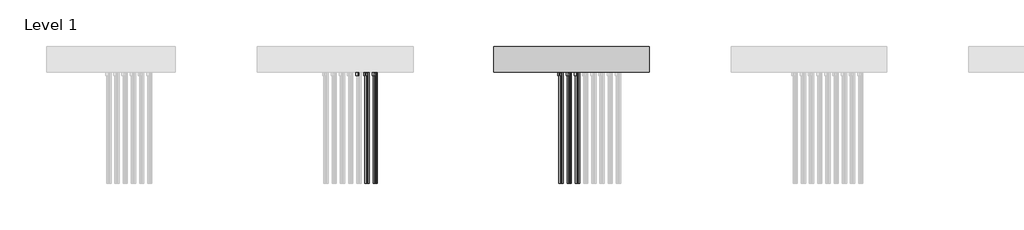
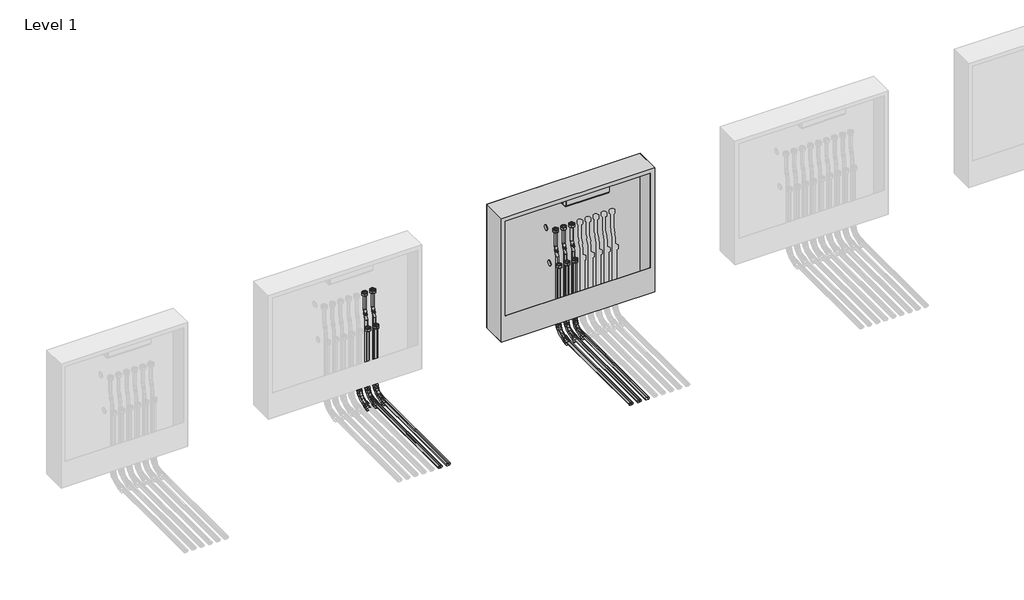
# One storey, part 6 of 15: 41 pipe fittings, 32 pipe segments, 1 proxy, 1 valve.
"""IFC4 building model written with IfcOpenShell, lengths in millimetres."""

from ifc_helpers import new_model, si_unit, point, frame, frame_2d, origin, place, context, project, spatial, circle_curve, trimmed, segment, composite_curve, outline, extrude, transform, mapped, element, save
from components import mechanical_equipment_387b3563, pipe_fitting_b05a7e06, pipe_fitting_27357a6d, pipe_fitting_daada113, pipe_fitting_3e503640, valve_ecdb27b7

model = new_model("IFC4")

# Units and contexts
model_context = context("Model", 3, world=origin())
ifc_project = project(units=[si_unit("LENGTHUNIT", "METRE", prefix="MILLI")], contexts=[model_context])

# Site, building, storey
site = spatial("IfcSite", under=ifc_project)
building = spatial("IfcBuilding", under=site)
storey = spatial("IfcBuildingStorey", under=building, Name="Level 1", Elevation=0.0)

# Proxy
placement = place(None, origin())
mechanical_equipment_shape = mechanical_equipment_387b3563(model_context)
element("IfcBuildingElementProxy", 1, Name="USYSTEMS_Контроллер UH-6 230В1 : Контроллер UH-6 230В 2", ObjectType="USYSTEMS_Контроллер UH-6 230В1 : Контроллер UH-6 230В 2", at=placement, inside=storey, context=model_context, shape_type="MappedRepresentation", body=[
    mapped(mechanical_equipment_shape, transform((10283.661723, 3891.7280605, 729.375), x_axis=(1.0, 0.0, 0.0), y_axis=(0.0, 1.0, 0.0), z_axis=(0.0, 0.0, 1.0))),
])

# Pipe fittings
pipe_fitting_shape = pipe_fitting_b05a7e06(model_context)
element("IfcPipeFitting", 2, ObjectType="USYSTEMS_УгловойФиксатор_Multi : Угловой фиксатор", at=placement, inside=storey, context=model_context, shape_type="MappedRepresentation", body=[
    mapped(pipe_fitting_shape, transform((8867.1374436, 3819.7304327, -114.3211479), x_axis=(0.0, 0.0, -1.0), y_axis=(0.0, -1.0, 0.0), z_axis=(-1.0, 0.0, 0.0))),
])
element("IfcPipeFitting", 3, ObjectType="USYSTEMS_УгловойФиксатор_Multi : Угловой фиксатор", at=placement, inside=storey, context=model_context, shape_type="MappedRepresentation", body=[
    mapped(pipe_fitting_shape, transform((8877.2232, 3855.7301106, -114.3211479), x_axis=(0.0, 0.0, -1.0), y_axis=(0.0, -1.0, 0.0), z_axis=(-1.0, 0.0, 0.0))),
])
element("IfcPipeFitting", 4, ObjectType="USYSTEMS_УгловойФиксатор_Multi : Угловой фиксатор", at=placement, inside=storey, context=model_context, shape_type="MappedRepresentation", body=[
    mapped(pipe_fitting_shape, transform((8917.1374436, 3819.7304124, -114.3211479), x_axis=(0.0, 0.0, -1.0), y_axis=(0.0, -1.0, 0.0), z_axis=(-1.0, 0.0, 0.0))),
])
element("IfcPipeFitting", 5, ObjectType="USYSTEMS_УгловойФиксатор_Multi : Угловой фиксатор", at=placement, inside=storey, context=model_context, shape_type="MappedRepresentation", body=[
    mapped(pipe_fitting_shape, transform((8927.2232, 3855.7301106, -114.3211479), x_axis=(0.0, 0.0, -1.0), y_axis=(0.0, -1.0, 0.0), z_axis=(-1.0, 0.0, 0.0))),
])
element("IfcPipeFitting", 6, ObjectType="USYSTEMS_УгловойФиксатор_Multi : Угловой фиксатор", at=placement, inside=storey, context=model_context, shape_type="MappedRepresentation", body=[
    mapped(pipe_fitting_shape, transform((8967.1374436, 3819.7301106, -114.3211479), x_axis=(0.0, 0.0, -1.0), y_axis=(0.0, -1.0, 0.0), z_axis=(-1.0, 0.0, 0.0))),
])
element("IfcPipeFitting", 7, ObjectType="USYSTEMS_УгловойФиксатор_Multi : Угловой фиксатор", at=placement, inside=storey, context=model_context, shape_type="MappedRepresentation", body=[
    mapped(pipe_fitting_shape, transform((8977.2232, 3855.7304327, -114.3211479), x_axis=(0.0, 0.0, -1.0), y_axis=(0.0, -1.0, 0.0), z_axis=(-1.0, 0.0, 0.0))),
])
element("IfcPipeFitting", 8, ObjectType="USYSTEMS_УгловойФиксатор_Multi : Угловой фиксатор", at=placement, inside=storey, context=model_context, shape_type="MappedRepresentation", body=[
    mapped(pipe_fitting_shape, transform((10100.2672599, 3819.7905605, -114.3211479), x_axis=(0.0, 0.0, -1.0), y_axis=(0.0, -1.0, 0.0), z_axis=(-1.0, 0.0, 0.0))),
])
element("IfcPipeFitting", 9, ObjectType="USYSTEMS_УгловойФиксатор_Multi : Угловой фиксатор", at=placement, inside=storey, context=model_context, shape_type="MappedRepresentation", body=[
    mapped(pipe_fitting_shape, transform((10150.2672599, 3819.7905605, -114.3211479), x_axis=(0.0, 0.0, -1.0), y_axis=(0.0, -1.0, 0.0), z_axis=(-1.0, 0.0, 0.0))),
])
element("IfcPipeFitting", 10, ObjectType="USYSTEMS_УгловойФиксатор_Multi : Угловой фиксатор", at=placement, inside=storey, context=model_context, shape_type="MappedRepresentation", body=[
    mapped(pipe_fitting_shape, transform((10110.3530164, 3855.7905605, -114.3211479), x_axis=(0.0, 0.0, -1.0), y_axis=(0.0, -1.0, 0.0), z_axis=(-1.0, 0.0, 0.0))),
])
element("IfcPipeFitting", 11, ObjectType="USYSTEMS_УгловойФиксатор_Multi : Угловой фиксатор", at=placement, inside=storey, context=model_context, shape_type="MappedRepresentation", body=[
    mapped(pipe_fitting_shape, transform((10160.3530164, 3855.7905605, -114.3211479), x_axis=(0.0, 0.0, -1.0), y_axis=(0.0, -1.0, 0.0), z_axis=(-1.0, 0.0, 0.0))),
])
element("IfcPipeFitting", 12, ObjectType="USYSTEMS_УгловойФиксатор_Multi : Угловой фиксатор", at=placement, inside=storey, context=model_context, shape_type="MappedRepresentation", body=[
    mapped(pipe_fitting_shape, transform((10200.2672599, 3819.7905605, -114.3211479), x_axis=(0.0, 0.0, -1.0), y_axis=(0.0, -1.0, 0.0), z_axis=(-1.0, 0.0, 0.0))),
])
pipe_fitting_2_shape = pipe_fitting_27357a6d(model_context)
element("IfcPipeFitting", 13, ObjectType="USYSTEMS_Штуцер с внутренней резьбой_FlexX_PEX : 16x2,0 x 3/4\" ВР Евроконус", at=placement, inside=storey, context=model_context, shape_type="MappedRepresentation", body=[
    mapped(pipe_fitting_2_shape, transform((8917.1374436, 3819.7305707, 328.3084133), x_axis=(0.0, 0.0, 1.0), y_axis=(0.0, 1.0, 0.0), z_axis=(-1.0, 0.0, 0.0))),
])
element("IfcPipeFitting", 14, ObjectType="USYSTEMS_Штуцер с внутренней резьбой_FlexX_PEX : 16x2,0 x 3/4\" ВР Евроконус", at=placement, inside=storey, context=model_context, shape_type="MappedRepresentation", body=[
    mapped(pipe_fitting_2_shape, transform((8917.1374436, 3855.7305707, 538.3084133), x_axis=(0.0, 0.0, 1.0), y_axis=(0.0, 1.0, 0.0), z_axis=(-1.0, 0.0, 0.0))),
])
element("IfcPipeFitting", 15, ObjectType="USYSTEMS_Штуцер с внутренней резьбой_FlexX_PEX : 16x2,0 x 3/4\" ВР Евроконус", at=placement, inside=storey, context=model_context, shape_type="MappedRepresentation", body=[
    mapped(pipe_fitting_2_shape, transform((8967.1374436, 3819.7305707, 328.3084133), x_axis=(0.0, 0.0, 1.0), y_axis=(0.0, 1.0, 0.0), z_axis=(-1.0, 0.0, 0.0))),
])
element("IfcPipeFitting", 16, ObjectType="USYSTEMS_Штуцер с внутренней резьбой_FlexX_PEX : 16x2,0 x 3/4\" ВР Евроконус", at=placement, inside=storey, context=model_context, shape_type="MappedRepresentation", body=[
    mapped(pipe_fitting_2_shape, transform((8967.1374436, 3855.7305707, 538.3084133), x_axis=(0.0, 0.0, 1.0), y_axis=(0.0, 1.0, 0.0), z_axis=(-1.0, 0.0, 0.0))),
])
element("IfcPipeFitting", 17, ObjectType="USYSTEMS_Штуцер с внутренней резьбой_FlexX_PEX : 16x2,0 x 3/4\" ВР Евроконус", at=placement, inside=storey, context=model_context, shape_type="MappedRepresentation", body=[
    mapped(pipe_fitting_2_shape, transform((10150.2672599, 3855.7910207, 538.3084133), x_axis=(0.0, 0.0, 1.0), y_axis=(0.0, 1.0, 0.0), z_axis=(-1.0, 0.0, 0.0))),
])
element("IfcPipeFitting", 18, ObjectType="USYSTEMS_Штуцер с внутренней резьбой_FlexX_PEX : 16x2,0 x 3/4\" ВР Евроконус", at=placement, inside=storey, context=model_context, shape_type="MappedRepresentation", body=[
    mapped(pipe_fitting_2_shape, transform((10150.2672599, 3819.7910207, 328.3084133), x_axis=(0.0, 0.0, 1.0), y_axis=(0.0, 1.0, 0.0), z_axis=(-1.0, 0.0, 0.0))),
])
element("IfcPipeFitting", 19, ObjectType="USYSTEMS_Штуцер с внутренней резьбой_FlexX_PEX : 16x2,0 x 3/4\" ВР Евроконус", at=placement, inside=storey, context=model_context, shape_type="MappedRepresentation", body=[
    mapped(pipe_fitting_2_shape, transform((10100.2672599, 3819.7910207, 328.3084133), x_axis=(0.0, 0.0, 1.0), y_axis=(0.0, 1.0, 0.0), z_axis=(-1.0, 0.0, 0.0))),
])
element("IfcPipeFitting", 20, ObjectType="USYSTEMS_Штуцер с внутренней резьбой_FlexX_PEX : 16x2,0 x 3/4\" ВР Евроконус", at=placement, inside=storey, context=model_context, shape_type="MappedRepresentation", body=[
    mapped(pipe_fitting_2_shape, transform((10100.2672599, 3855.7910207, 538.3084133), x_axis=(0.0, 0.0, 1.0), y_axis=(0.0, 1.0, 0.0), z_axis=(-1.0, 0.0, 0.0))),
])
element("IfcPipeFitting", 21, ObjectType="USYSTEMS_Штуцер с внутренней резьбой_FlexX_PEX : 16x2,0 x 3/4\" ВР Евроконус", at=placement, inside=storey, context=model_context, shape_type="MappedRepresentation", body=[
    mapped(pipe_fitting_2_shape, transform((10200.2672599, 3819.7910207, 328.3084133), x_axis=(0.0, 0.0, 1.0), y_axis=(0.0, 1.0, 0.0), z_axis=(-1.0, 0.0, 0.0))),
])
element("IfcPipeFitting", 22, ObjectType="USYSTEMS_Штуцер с внутренней резьбой_FlexX_PEX : 16x2,0 x 3/4\" ВР Евроконус", at=placement, inside=storey, context=model_context, shape_type="MappedRepresentation", body=[
    mapped(pipe_fitting_2_shape, transform((10200.2672599, 3855.7910207, 538.3084133), x_axis=(0.0, 0.0, 1.0), y_axis=(0.0, 1.0, 0.0), z_axis=(-1.0, 0.0, 0.0))),
])
pipe_fitting_3_shape = pipe_fitting_daada113(model_context)
element("IfcPipeFitting", 23, ObjectType="USYSTEMS_Гнутая труба_Radi Pipe : PN 6 в бухтах", at=placement, inside=storey, context=model_context, shape_type="MappedRepresentation", body=[
    mapped(pipe_fitting_3_shape, transform((8917.1374436, 3855.7299215, 414.5388211), x_axis=(0.0, 0.0, -1.0), y_axis=(1.0, 0.0, 0.0), z_axis=(0.0, -1.0, 0.0))),
])
element("IfcPipeFitting", 24, ObjectType="USYSTEMS_Гнутая труба_Radi Pipe : PN 6 в бухтах", at=placement, inside=storey, context=model_context, shape_type="MappedRepresentation", body=[
    mapped(pipe_fitting_3_shape, transform((8927.2232, 3855.7301106, 388.2645272), x_axis=(0.3583679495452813, 0.0, -0.9335804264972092), y_axis=(-0.9335804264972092, 0.0, -0.3583679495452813), z_axis=(0.0, 1.0, 0.0))),
])
element("IfcPipeFitting", 25, ObjectType="USYSTEMS_Гнутая труба_Radi Pipe : PN 6 в бухтах", at=placement, inside=storey, context=model_context, shape_type="MappedRepresentation", body=[
    mapped(pipe_fitting_3_shape, transform((8967.1374436, 3855.7303427, 414.5388211), x_axis=(0.0, 0.0, -1.0), y_axis=(1.0, 0.0, 0.0), z_axis=(0.0, -1.0, 0.0))),
])
element("IfcPipeFitting", 26, ObjectType="USYSTEMS_Гнутая труба_Radi Pipe : PN 6 в бухтах", at=placement, inside=storey, context=model_context, shape_type="MappedRepresentation", body=[
    mapped(pipe_fitting_3_shape, transform((8977.2232, 3855.7304327, 388.2645272), x_axis=(0.3583679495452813, 0.0, -0.9335804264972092), y_axis=(-0.9335804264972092, 0.0, -0.3583679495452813), z_axis=(0.0, 1.0, 0.0))),
])
pipe_fitting_4_shape = pipe_fitting_3e503640(model_context)
element("IfcPipeFitting", 27, ObjectType="USYSTEMS_Гнутая труба_Radi Pipe : PN 6 в бухтах_С фиксатором", at=placement, inside=storey, context=model_context, shape_type="MappedRepresentation", body=[
    mapped(pipe_fitting_4_shape, transform((8917.1374436, 3819.7304124, -114.3211479), x_axis=(0.0, 0.0, -1.0), y_axis=(0.0, -1.0, 0.0), z_axis=(-1.0, 0.0, 0.0))),
])
element("IfcPipeFitting", 28, ObjectType="USYSTEMS_Гнутая труба_Radi Pipe : PN 6 в бухтах_С фиксатором", at=placement, inside=storey, context=model_context, shape_type="MappedRepresentation", body=[
    mapped(pipe_fitting_4_shape, transform((8927.2232, 3855.7301106, -114.3211479), x_axis=(0.0, 0.0, -1.0), y_axis=(0.0, -1.0, 0.0), z_axis=(-1.0, 0.0, 0.0))),
])
element("IfcPipeFitting", 29, ObjectType="USYSTEMS_Гнутая труба_Radi Pipe : PN 6 в бухтах_С фиксатором", at=placement, inside=storey, context=model_context, shape_type="MappedRepresentation", body=[
    mapped(pipe_fitting_4_shape, transform((8967.1374436, 3819.7301106, -114.3211479), x_axis=(0.0, 0.0, -1.0), y_axis=(0.0, -1.0, 0.0), z_axis=(-1.0, 0.0, 0.0))),
])
element("IfcPipeFitting", 30, ObjectType="USYSTEMS_Гнутая труба_Radi Pipe : PN 6 в бухтах_С фиксатором", at=placement, inside=storey, context=model_context, shape_type="MappedRepresentation", body=[
    mapped(pipe_fitting_4_shape, transform((8977.2232, 3855.7304327, -114.3211479), x_axis=(0.0, 0.0, -1.0), y_axis=(0.0, -1.0, 0.0), z_axis=(-1.0, 0.0, 0.0))),
])
element("IfcPipeFitting", 31, ObjectType="USYSTEMS_Гнутая труба_Radi Pipe : PN 6 в бухтах", at=placement, inside=storey, context=model_context, shape_type="MappedRepresentation", body=[
    mapped(pipe_fitting_3_shape, transform((10100.2672599, 3855.7902607, 414.5388211), x_axis=(0.0, 0.0, -1.0), y_axis=(1.0, 0.0, 0.0), z_axis=(0.0, -1.0, 0.0))),
])
element("IfcPipeFitting", 32, ObjectType="USYSTEMS_Гнутая труба_Radi Pipe : PN 6 в бухтах", at=placement, inside=storey, context=model_context, shape_type="MappedRepresentation", body=[
    mapped(pipe_fitting_3_shape, transform((10110.3530164, 3855.7905605, 388.2645272), x_axis=(0.3583679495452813, 0.0, -0.9335804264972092), y_axis=(-0.9335804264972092, 0.0, -0.3583679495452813), z_axis=(0.0, 1.0, 0.0))),
])
element("IfcPipeFitting", 33, ObjectType="USYSTEMS_Гнутая труба_Radi Pipe : PN 6 в бухтах", at=placement, inside=storey, context=model_context, shape_type="MappedRepresentation", body=[
    mapped(pipe_fitting_3_shape, transform((10150.2672599, 3855.7902608, 414.5122189), x_axis=(0.0, 0.0, -1.0), y_axis=(1.0, 0.0, 0.0), z_axis=(0.0, -1.0, 0.0))),
])
element("IfcPipeFitting", 34, ObjectType="USYSTEMS_Гнутая труба_Radi Pipe : PN 6 в бухтах", at=placement, inside=storey, context=model_context, shape_type="MappedRepresentation", body=[
    mapped(pipe_fitting_3_shape, transform((10160.3530164, 3855.7905605, 388.237925), x_axis=(0.3583679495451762, 0.0, -0.9335804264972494), y_axis=(-0.9335804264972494, 0.0, -0.3583679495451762), z_axis=(0.0, 1.0, 0.0))),
])
element("IfcPipeFitting", 35, ObjectType="USYSTEMS_Гнутая труба_Radi Pipe : PN 6 в бухтах", at=placement, inside=storey, context=model_context, shape_type="MappedRepresentation", body=[
    mapped(pipe_fitting_3_shape, transform((10200.2672599, 3855.7907927, 414.5388211), x_axis=(0.0, 0.0, -1.0), y_axis=(1.0, 0.0, 0.0), z_axis=(0.0, -1.0, 0.0))),
])
element("IfcPipeFitting", 36, ObjectType="USYSTEMS_Гнутая труба_Radi Pipe : PN 6 в бухтах", at=placement, inside=storey, context=model_context, shape_type="MappedRepresentation", body=[
    mapped(pipe_fitting_3_shape, transform((10210.3530164, 3855.7905605, 388.2645272), x_axis=(0.3583679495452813, 0.0, -0.9335804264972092), y_axis=(-0.9335804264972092, 0.0, -0.3583679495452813), z_axis=(0.0, 1.0, 0.0))),
])
element("IfcPipeFitting", 37, ObjectType="USYSTEMS_Гнутая труба_Radi Pipe : PN 6 в бухтах_С фиксатором", at=placement, inside=storey, context=model_context, shape_type="MappedRepresentation", body=[
    mapped(pipe_fitting_4_shape, transform((10100.2672599, 3819.7905605, -114.3211479), x_axis=(0.0, 0.0, -1.0), y_axis=(0.0, -1.0, 0.0), z_axis=(-1.0, 0.0, 0.0))),
])
element("IfcPipeFitting", 38, ObjectType="USYSTEMS_Гнутая труба_Radi Pipe : PN 6 в бухтах_С фиксатором", at=placement, inside=storey, context=model_context, shape_type="MappedRepresentation", body=[
    mapped(pipe_fitting_4_shape, transform((10150.2672599, 3819.7905605, -114.3211479), x_axis=(0.0, 0.0, -1.0), y_axis=(0.0, -1.0, 0.0), z_axis=(-1.0, 0.0, 0.0))),
])
element("IfcPipeFitting", 39, ObjectType="USYSTEMS_Гнутая труба_Radi Pipe : PN 6 в бухтах_С фиксатором", at=placement, inside=storey, context=model_context, shape_type="MappedRepresentation", body=[
    mapped(pipe_fitting_4_shape, transform((10110.3530164, 3855.7905605, -114.3211479), x_axis=(0.0, 0.0, -1.0), y_axis=(0.0, -1.0, 0.0), z_axis=(-1.0, 0.0, 0.0))),
])
element("IfcPipeFitting", 40, ObjectType="USYSTEMS_Гнутая труба_Radi Pipe : PN 6 в бухтах_С фиксатором", at=placement, inside=storey, context=model_context, shape_type="MappedRepresentation", body=[
    mapped(pipe_fitting_4_shape, transform((10160.3530164, 3855.7905605, -114.3211479), x_axis=(0.0, 0.0, -1.0), y_axis=(0.0, -1.0, 0.0), z_axis=(-1.0, 0.0, 0.0))),
])
element("IfcPipeFitting", 41, ObjectType="USYSTEMS_Гнутая труба_Radi Pipe : PN 6 в бухтах_С фиксатором", at=placement, inside=storey, context=model_context, shape_type="MappedRepresentation", body=[
    mapped(pipe_fitting_4_shape, transform((10200.2672599, 3819.7905605, -114.3211479), x_axis=(0.0, 0.0, -1.0), y_axis=(0.0, -1.0, 0.0), z_axis=(-1.0, 0.0, 0.0))),
])
element("IfcPipeFitting", 42, ObjectType="USYSTEMS_Гнутая труба_Radi Pipe : PN 6 в бухтах_С фиксатором", at=placement, inside=storey, context=model_context, shape_type="MappedRepresentation", body=[
    mapped(pipe_fitting_4_shape, transform((10210.3530164, 3855.7905605, -114.3211479), x_axis=(0.0, 0.0, -1.0), y_axis=(0.0, -1.0, 0.0), z_axis=(-1.0, 0.0, 0.0))),
])

# Pipe segments
element("IfcPipeSegment", 43, ObjectType="USYSTEMS труба Radi Pipe белая PN6", at=placement, inside=storey, context=model_context, shape_type="SweptSolid", body=[
    extrude(outline(composite_curve([segment(trimmed(circle_curve(frame_2d((0.0, -8.0)), 8.0), [point((-8.0, -8.0))], [point((0.0, 0.0))], False, "CARTESIAN"), True, "CONTINUOUS"), segment(trimmed(circle_curve(frame_2d((0.0, -8.0)), 8.0), [point((0.0, 0.0))], [point((8.0, -8.0))], False, "CARTESIAN"), True, "CONTINUOUS"), segment(trimmed(circle_curve(frame_2d((0.0, -8.0)), 8.0), [point((8.0, -8.0))], [point((0.0, -16.0))], False, "CARTESIAN"), True, "CONTINUOUS"), segment(trimmed(circle_curve(frame_2d((0.0, -8.0)), 8.0), [point((0.0, -16.0))], [point((-8.0, -8.0))], False, "CARTESIAN"), True, "CONTINUOUS")], self_intersect=False)), frame((8917.1374436, 3811.7304124, -43.3211445), z_axis=(0.0, 4.2711823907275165e-07, 0.9999999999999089), x_axis=(-1.0, 0.0, 0.0)), (0.0, 0.0, 1.0), 370.6295612),
])
element("IfcPipeSegment", 44, ObjectType="USYSTEMS труба Radi Pipe белая PN6", at=placement, inside=storey, context=model_context, shape_type="SweptSolid", body=[
    extrude(outline(composite_curve([segment(trimmed(circle_curve(frame_2d((0.0, -8.0)), 8.0), [point((-8.0, -8.0))], [point((0.0, 0.0))], False, "CARTESIAN"), True, "CONTINUOUS"), segment(trimmed(circle_curve(frame_2d((0.0, -8.0)), 8.0), [point((0.0, 0.0))], [point((8.0, -8.0))], False, "CARTESIAN"), True, "CONTINUOUS"), segment(trimmed(circle_curve(frame_2d((0.0, -8.0)), 8.0), [point((8.0, -8.0))], [point((0.0, -16.0))], False, "CARTESIAN"), True, "CONTINUOUS"), segment(trimmed(circle_curve(frame_2d((0.0, -8.0)), 8.0), [point((0.0, -16.0))], [point((-8.0, -8.0))], False, "CARTESIAN"), True, "CONTINUOUS")], self_intersect=False)), frame((8917.1374436, 3847.7299215, 438.2622713), z_axis=(0.0, 6.5546183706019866e-06, 0.9999999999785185), x_axis=(-1.0, 0.0, 0.0)), (0.0, 0.0, 1.0), 99.0461944),
])
element("IfcPipeSegment", 45, ObjectType="USYSTEMS труба Radi Pipe белая PN6", at=placement, inside=storey, context=model_context, shape_type="SweptSolid", body=[
    extrude(outline(composite_curve([segment(trimmed(circle_curve(frame_2d((0.0, 8.0)), 8.0), [point((0.0002341, 16.0))], [point((8.0, 7.9997658))], False, "CARTESIAN"), True, "CONTINUOUS"), segment(trimmed(circle_curve(frame_2d((0.0, 8.0)), 8.0), [point((8.0, 7.9997658))], [point((-0.0002343, 0.0))], False, "CARTESIAN"), True, "CONTINUOUS"), segment(trimmed(circle_curve(frame_2d((0.0, 8.0)), 8.0), [point((-0.0002343, 0.0))], [point((-8.0, 8.0002342))], False, "CARTESIAN"), True, "CONTINUOUS"), segment(trimmed(circle_curve(frame_2d((0.0, 8.0)), 8.0), [point((-8.0, 8.0002342))], [point((0.0002341, 16.0))], False, "CARTESIAN"), True, "CONTINUOUS")], self_intersect=False)), frame((8925.639149, 3847.7299215, 392.3912053), z_axis=(-0.3583679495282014, 9.79490331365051e-06, 0.9335804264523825), x_axis=(0.9335804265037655, 3.759911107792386e-06, 0.35836794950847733)), (0.0, 0.0, 1.0), 19.3032171),
])
element("IfcPipeSegment", 46, ObjectType="USYSTEMS труба Radi Pipe белая PN6", at=placement, inside=storey, context=model_context, shape_type="SweptSolid", body=[
    extrude(outline(composite_curve([segment(trimmed(circle_curve(frame_2d((8927.2232, 3855.7301106)), 8.0), [point((8935.2232, 3855.7301106))], [point((8927.2232, 3847.7301106))], False, "CARTESIAN"), True, "CONTINUOUS"), segment(trimmed(circle_curve(frame_2d((8927.2232, 3855.7301106)), 8.0), [point((8927.2232, 3847.7301106))], [point((8919.2232, 3855.7301106))], False, "CARTESIAN"), True, "CONTINUOUS"), segment(trimmed(circle_curve(frame_2d((8927.2232, 3855.7301106)), 8.0), [point((8919.2232, 3855.7301106))], [point((8927.2232, 3863.7301106))], False, "CARTESIAN"), True, "CONTINUOUS"), segment(trimmed(circle_curve(frame_2d((8927.2232, 3855.7301106)), 8.0), [point((8927.2232, 3863.7301106))], [point((8935.2232, 3855.7301106))], False, "CARTESIAN"), True, "CONTINUOUS")], self_intersect=False)), frame((0.0, 0.0, -43.3211479), z_axis=(0.0, 0.0, 1.0), x_axis=(1.0, 0.0, 0.0)), (0.0, 0.0, 1.0), 407.8622774),
])
element("IfcPipeSegment", 47, ObjectType="USYSTEMS труба Radi Pipe белая PN6", at=placement, inside=storey, context=model_context, shape_type="SweptSolid", body=[
    extrude(outline(composite_curve([segment(trimmed(circle_curve(frame_2d((-114.3211479, 8917.1374436)), 8.0), [point((-114.3211479, 8909.1374436))], [point((-122.3211479, 8917.1374436))], False, "CARTESIAN"), True, "CONTINUOUS"), segment(trimmed(circle_curve(frame_2d((-114.3211479, 8917.1374436)), 8.0), [point((-122.3211479, 8917.1374436))], [point((-114.3211479, 8925.1374436))], False, "CARTESIAN"), True, "CONTINUOUS"), segment(trimmed(circle_curve(frame_2d((-114.3211479, 8917.1374436)), 8.0), [point((-114.3211479, 8925.1374436))], [point((-106.3211479, 8917.1374436))], False, "CARTESIAN"), True, "CONTINUOUS"), segment(trimmed(circle_curve(frame_2d((-114.3211479, 8917.1374436)), 8.0), [point((-106.3211479, 8917.1374436))], [point((-114.3211479, 8909.1374436))], False, "CARTESIAN"), True, "CONTINUOUS")], self_intersect=False)), frame((0.0, 3054.7207207, 0.0), z_axis=(0.0, 1.0, 0.0), x_axis=(0.0, 0.0, 1.0)), (0.0, 0.0, 1.0), 694.0096917),
])
element("IfcPipeSegment", 48, ObjectType="USYSTEMS труба Radi Pipe белая PN6", at=placement, inside=storey, context=model_context, shape_type="SweptSolid", body=[
    extrude(outline(composite_curve([segment(trimmed(circle_curve(frame_2d((-114.3211479, 8927.2232)), 8.0), [point((-114.3211479, 8919.2232))], [point((-122.3211479, 8927.2232))], False, "CARTESIAN"), True, "CONTINUOUS"), segment(trimmed(circle_curve(frame_2d((-114.3211479, 8927.2232)), 8.0), [point((-122.3211479, 8927.2232))], [point((-114.3211479, 8935.2232))], False, "CARTESIAN"), True, "CONTINUOUS"), segment(trimmed(circle_curve(frame_2d((-114.3211479, 8927.2232)), 8.0), [point((-114.3211479, 8935.2232))], [point((-106.3211479, 8927.2232))], False, "CARTESIAN"), True, "CONTINUOUS"), segment(trimmed(circle_curve(frame_2d((-114.3211479, 8927.2232)), 8.0), [point((-106.3211479, 8927.2232))], [point((-114.3211479, 8919.2232))], False, "CARTESIAN"), True, "CONTINUOUS")], self_intersect=False)), frame((0.0, 3054.7207207, 0.0), z_axis=(0.0, 1.0, 0.0), x_axis=(0.0, 0.0, 1.0)), (0.0, 0.0, 1.0), 730.0093898),
])
element("IfcPipeSegment", 49, ObjectType="USYSTEMS труба Radi Pipe белая PN6", at=placement, inside=storey, context=model_context, shape_type="SweptSolid", body=[
    extrude(outline(composite_curve([segment(trimmed(circle_curve(frame_2d((0.0, -8.0)), 8.0), [point((-8.0, -8.0))], [point((0.0, 0.0))], False, "CARTESIAN"), True, "CONTINUOUS"), segment(trimmed(circle_curve(frame_2d((0.0, -8.0)), 8.0), [point((0.0, 0.0))], [point((8.0, -8.0))], False, "CARTESIAN"), True, "CONTINUOUS"), segment(trimmed(circle_curve(frame_2d((0.0, -8.0)), 8.0), [point((8.0, -8.0))], [point((0.0, -16.0))], False, "CARTESIAN"), True, "CONTINUOUS"), segment(trimmed(circle_curve(frame_2d((0.0, -8.0)), 8.0), [point((0.0, -16.0))], [point((-8.0, -8.0))], False, "CARTESIAN"), True, "CONTINUOUS")], self_intersect=False)), frame((8967.1374436, 3811.7301106, -43.321138), z_axis=(0.0, 1.2415007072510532e-06, 0.9999999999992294), x_axis=(-1.0, 0.0, 0.0)), (0.0, 0.0, 1.0), 370.6295612),
])
element("IfcPipeSegment", 50, ObjectType="USYSTEMS труба Radi Pipe белая PN6", at=placement, inside=storey, context=model_context, shape_type="SweptSolid", body=[
    extrude(outline(composite_curve([segment(trimmed(circle_curve(frame_2d((0.0, -8.0)), 8.0), [point((-8.0, -8.0))], [point((0.0, 0.0))], False, "CARTESIAN"), True, "CONTINUOUS"), segment(trimmed(circle_curve(frame_2d((0.0, -8.0)), 8.0), [point((0.0, 0.0))], [point((8.0, -8.0))], False, "CARTESIAN"), True, "CONTINUOUS"), segment(trimmed(circle_curve(frame_2d((0.0, -8.0)), 8.0), [point((8.0, -8.0))], [point((0.0, -16.0))], False, "CARTESIAN"), True, "CONTINUOUS"), segment(trimmed(circle_curve(frame_2d((0.0, -8.0)), 8.0), [point((0.0, -16.0))], [point((-8.0, -8.0))], False, "CARTESIAN"), True, "CONTINUOUS")], self_intersect=False)), frame((8967.1374436, 3847.7303427, 438.2622373), z_axis=(0.0, 2.3018406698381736e-06, 0.9999999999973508), x_axis=(-1.0, 0.0, 0.0)), (0.0, 0.0, 1.0), 99.0461944),
])
element("IfcPipeSegment", 51, ObjectType="USYSTEMS труба Radi Pipe белая PN6", at=placement, inside=storey, context=model_context, shape_type="SweptSolid", body=[
    extrude(outline(composite_curve([segment(trimmed(circle_curve(frame_2d((0.0, 8.0)), 8.0), [point((0.0001114, 16.0))], [point((8.0, 7.9998886))], False, "CARTESIAN"), True, "CONTINUOUS"), segment(trimmed(circle_curve(frame_2d((0.0, 8.0)), 8.0), [point((8.0, 7.9998886))], [point((-0.0001114, 0.0))], False, "CARTESIAN"), True, "CONTINUOUS"), segment(trimmed(circle_curve(frame_2d((0.0, 8.0)), 8.0), [point((-0.0001114, 0.0))], [point((-8.0, 8.0001114))], False, "CARTESIAN"), True, "CONTINUOUS"), segment(trimmed(circle_curve(frame_2d((0.0, 8.0)), 8.0), [point((-8.0, 8.0001114))], [point((0.0001114, 16.0))], False, "CARTESIAN"), True, "CONTINUOUS")], self_intersect=False)), frame((8975.639149, 3847.7303427, 392.3911613), z_axis=(-0.3583679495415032, 4.659715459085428e-06, 0.9335804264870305), x_axis=(0.9335804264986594, 1.788697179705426e-06, 0.35836794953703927)), (0.0, 0.0, 1.0), 19.3032171),
])
element("IfcPipeSegment", 52, ObjectType="USYSTEMS труба Radi Pipe белая PN6", at=placement, inside=storey, context=model_context, shape_type="SweptSolid", body=[
    extrude(outline(composite_curve([segment(trimmed(circle_curve(frame_2d((8977.2232, 3855.7304327)), 8.0), [point((8985.2232, 3855.7304327))], [point((8977.2232, 3847.7304327))], False, "CARTESIAN"), True, "CONTINUOUS"), segment(trimmed(circle_curve(frame_2d((8977.2232, 3855.7304327)), 8.0), [point((8977.2232, 3847.7304327))], [point((8969.2232, 3855.7304327))], False, "CARTESIAN"), True, "CONTINUOUS"), segment(trimmed(circle_curve(frame_2d((8977.2232, 3855.7304327)), 8.0), [point((8969.2232, 3855.7304327))], [point((8977.2232, 3863.7304327))], False, "CARTESIAN"), True, "CONTINUOUS"), segment(trimmed(circle_curve(frame_2d((8977.2232, 3855.7304327)), 8.0), [point((8977.2232, 3863.7304327))], [point((8985.2232, 3855.7304327))], False, "CARTESIAN"), True, "CONTINUOUS")], self_intersect=False)), frame((0.0, 0.0, -43.3211479), z_axis=(0.0, 0.0, 1.0), x_axis=(1.0, 0.0, 0.0)), (0.0, 0.0, 1.0), 407.8622774),
])
element("IfcPipeSegment", 53, ObjectType="USYSTEMS труба Radi Pipe белая PN6", at=placement, inside=storey, context=model_context, shape_type="SweptSolid", body=[
    extrude(outline(composite_curve([segment(trimmed(circle_curve(frame_2d((-114.3211479, 8967.1374436)), 8.0), [point((-114.3211479, 8959.1374436))], [point((-122.3211479, 8967.1374436))], False, "CARTESIAN"), True, "CONTINUOUS"), segment(trimmed(circle_curve(frame_2d((-114.3211479, 8967.1374436)), 8.0), [point((-122.3211479, 8967.1374436))], [point((-114.3211479, 8975.1374436))], False, "CARTESIAN"), True, "CONTINUOUS"), segment(trimmed(circle_curve(frame_2d((-114.3211479, 8967.1374436)), 8.0), [point((-114.3211479, 8975.1374436))], [point((-106.3211479, 8967.1374436))], False, "CARTESIAN"), True, "CONTINUOUS"), segment(trimmed(circle_curve(frame_2d((-114.3211479, 8967.1374436)), 8.0), [point((-106.3211479, 8967.1374436))], [point((-114.3211479, 8959.1374436))], False, "CARTESIAN"), True, "CONTINUOUS")], self_intersect=False)), frame((0.0, 3054.7207207, 0.0), z_axis=(0.0, 1.0, 0.0), x_axis=(0.0, 0.0, 1.0)), (0.0, 0.0, 1.0), 694.0093898),
])
element("IfcPipeSegment", 54, ObjectType="USYSTEMS труба Radi Pipe белая PN6", at=placement, inside=storey, context=model_context, shape_type="SweptSolid", body=[
    extrude(outline(composite_curve([segment(trimmed(circle_curve(frame_2d((-114.3211479, 8977.2232)), 8.0), [point((-114.3211479, 8969.2232))], [point((-122.3211479, 8977.2232))], False, "CARTESIAN"), True, "CONTINUOUS"), segment(trimmed(circle_curve(frame_2d((-114.3211479, 8977.2232)), 8.0), [point((-122.3211479, 8977.2232))], [point((-114.3211479, 8985.2232))], False, "CARTESIAN"), True, "CONTINUOUS"), segment(trimmed(circle_curve(frame_2d((-114.3211479, 8977.2232)), 8.0), [point((-114.3211479, 8985.2232))], [point((-106.3211479, 8977.2232))], False, "CARTESIAN"), True, "CONTINUOUS"), segment(trimmed(circle_curve(frame_2d((-114.3211479, 8977.2232)), 8.0), [point((-106.3211479, 8977.2232))], [point((-114.3211479, 8969.2232))], False, "CARTESIAN"), True, "CONTINUOUS")], self_intersect=False)), frame((0.0, 3054.7207207, 0.0), z_axis=(0.0, 1.0, 0.0), x_axis=(0.0, 0.0, 1.0)), (0.0, 0.0, 1.0), 730.0097119),
])
element("IfcPipeSegment", 55, ObjectType="USYSTEMS труба Radi Pipe белая PN6", at=placement, inside=storey, context=model_context, shape_type="SweptSolid", body=[
    extrude(outline(composite_curve([segment(trimmed(circle_curve(frame_2d((0.0, -8.0)), 8.0), [point((-8.0, -8.0))], [point((0.0, 0.0))], False, "CARTESIAN"), True, "CONTINUOUS"), segment(trimmed(circle_curve(frame_2d((0.0, -8.0)), 8.0), [point((0.0, 0.0))], [point((8.0, -8.0))], False, "CARTESIAN"), True, "CONTINUOUS"), segment(trimmed(circle_curve(frame_2d((0.0, -8.0)), 8.0), [point((8.0, -8.0))], [point((0.0, -16.0))], False, "CARTESIAN"), True, "CONTINUOUS"), segment(trimmed(circle_curve(frame_2d((0.0, -8.0)), 8.0), [point((0.0, -16.0))], [point((-8.0, -8.0))], False, "CARTESIAN"), True, "CONTINUOUS")], self_intersect=False)), frame((10100.2672599, 3811.7905605, -43.321138), z_axis=(0.0, 1.241500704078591e-06, 0.9999999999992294), x_axis=(-1.0, 0.0, 0.0)), (0.0, 0.0, 1.0), 370.6295612),
])
element("IfcPipeSegment", 56, ObjectType="USYSTEMS труба Radi Pipe белая PN6", at=placement, inside=storey, context=model_context, shape_type="SweptSolid", body=[
    extrude(outline(composite_curve([segment(trimmed(circle_curve(frame_2d((0.0, -8.0)), 8.0), [point((-8.0, -8.0))], [point((0.0, 0.0))], False, "CARTESIAN"), True, "CONTINUOUS"), segment(trimmed(circle_curve(frame_2d((0.0, -8.0)), 8.0), [point((0.0, 0.0))], [point((8.0, -8.0))], False, "CARTESIAN"), True, "CONTINUOUS"), segment(trimmed(circle_curve(frame_2d((0.0, -8.0)), 8.0), [point((8.0, -8.0))], [point((0.0, -16.0))], False, "CARTESIAN"), True, "CONTINUOUS"), segment(trimmed(circle_curve(frame_2d((0.0, -8.0)), 8.0), [point((0.0, -16.0))], [point((-8.0, -8.0))], False, "CARTESIAN"), True, "CONTINUOUS")], self_intersect=False)), frame((10150.2672599, 3811.7905605, -43.321138), z_axis=(0.0, 1.241500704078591e-06, 0.9999999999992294), x_axis=(-1.0, 0.0, 0.0)), (0.0, 0.0, 1.0), 370.6295612),
])
element("IfcPipeSegment", 57, ObjectType="USYSTEMS труба Radi Pipe белая PN6", at=placement, inside=storey, context=model_context, shape_type="SweptSolid", body=[
    extrude(outline(composite_curve([segment(trimmed(circle_curve(frame_2d((0.0, -8.0)), 8.0), [point((-8.0, -8.0))], [point((0.0, 0.0))], False, "CARTESIAN"), True, "CONTINUOUS"), segment(trimmed(circle_curve(frame_2d((0.0, -8.0)), 8.0), [point((0.0, 0.0))], [point((8.0, -8.0))], False, "CARTESIAN"), True, "CONTINUOUS"), segment(trimmed(circle_curve(frame_2d((0.0, -8.0)), 8.0), [point((8.0, -8.0))], [point((0.0, -16.0))], False, "CARTESIAN"), True, "CONTINUOUS"), segment(trimmed(circle_curve(frame_2d((0.0, -8.0)), 8.0), [point((0.0, -16.0))], [point((-8.0, -8.0))], False, "CARTESIAN"), True, "CONTINUOUS")], self_intersect=False)), frame((10150.2672599, 3847.7902608, 438.235678), z_axis=(0.0, 7.669400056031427e-06, 0.9999999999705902), x_axis=(-1.0, 0.0, 0.0)), (0.0, 0.0, 1.0), 99.0727967),
])
element("IfcPipeSegment", 58, ObjectType="USYSTEMS труба Radi Pipe белая PN6", at=placement, inside=storey, context=model_context, shape_type="SweptSolid", body=[
    extrude(outline(composite_curve([segment(trimmed(circle_curve(frame_2d((0.0, -8.0)), 8.0), [point((-8.0, -8.0))], [point((0.0, 0.0))], False, "CARTESIAN"), True, "CONTINUOUS"), segment(trimmed(circle_curve(frame_2d((0.0, -8.0)), 8.0), [point((0.0, 0.0))], [point((8.0, -8.0))], False, "CARTESIAN"), True, "CONTINUOUS"), segment(trimmed(circle_curve(frame_2d((0.0, -8.0)), 8.0), [point((8.0, -8.0))], [point((0.0, -16.0))], False, "CARTESIAN"), True, "CONTINUOUS"), segment(trimmed(circle_curve(frame_2d((0.0, -8.0)), 8.0), [point((0.0, -16.0))], [point((-8.0, -8.0))], False, "CARTESIAN"), True, "CONTINUOUS")], self_intersect=False)), frame((10100.2672599, 3847.7902607, 438.2622802), z_axis=(0.0, 7.672802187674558e-06, 0.9999999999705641), x_axis=(-1.0, 0.0, 0.0)), (0.0, 0.0, 1.0), 99.0461944),
])
element("IfcPipeSegment", 59, ObjectType="USYSTEMS труба Radi Pipe белая PN6", at=placement, inside=storey, context=model_context, shape_type="SweptSolid", body=[
    extrude(outline(composite_curve([segment(trimmed(circle_curve(frame_2d((0.0, 8.0)), 8.0), [point((0.0003715, 16.0))], [point((8.0, 7.9996286))], False, "CARTESIAN"), True, "CONTINUOUS"), segment(trimmed(circle_curve(frame_2d((0.0, 8.0)), 8.0), [point((8.0, 7.9996286))], [point((-0.0003714, 0.0))], False, "CARTESIAN"), True, "CONTINUOUS"), segment(trimmed(circle_curve(frame_2d((0.0, 8.0)), 8.0), [point((-0.0003714, 0.0))], [point((-8.0, 8.0003714))], False, "CARTESIAN"), True, "CONTINUOUS"), segment(trimmed(circle_curve(frame_2d((0.0, 8.0)), 8.0), [point((-8.0, 8.0003714))], [point((0.0003715, 16.0))], False, "CARTESIAN"), True, "CONTINUOUS")], self_intersect=False)), frame((10108.7689653, 3847.7902607, 392.3912544), z_axis=(-0.35836794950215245, 1.5532384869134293e-05, 0.9335804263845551), x_axis=(0.9335804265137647, 5.9623239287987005e-06, 0.3583679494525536)), (0.0, 0.0, 1.0), 19.3032171),
])
element("IfcPipeSegment", 60, ObjectType="USYSTEMS труба Radi Pipe белая PN6", at=placement, inside=storey, context=model_context, shape_type="SweptSolid", body=[
    extrude(outline(composite_curve([segment(trimmed(circle_curve(frame_2d((10110.3530164, 3855.7905605)), 8.0), [point((10118.3530164, 3855.7905605))], [point((10110.3530164, 3847.7905605))], False, "CARTESIAN"), True, "CONTINUOUS"), segment(trimmed(circle_curve(frame_2d((10110.3530164, 3855.7905605)), 8.0), [point((10110.3530164, 3847.7905605))], [point((10102.3530164, 3855.7905605))], False, "CARTESIAN"), True, "CONTINUOUS"), segment(trimmed(circle_curve(frame_2d((10110.3530164, 3855.7905605)), 8.0), [point((10102.3530164, 3855.7905605))], [point((10110.3530164, 3863.7905605))], False, "CARTESIAN"), True, "CONTINUOUS"), segment(trimmed(circle_curve(frame_2d((10110.3530164, 3855.7905605)), 8.0), [point((10110.3530164, 3863.7905605))], [point((10118.3530164, 3855.7905605))], False, "CARTESIAN"), True, "CONTINUOUS")], self_intersect=False)), frame((0.0, 0.0, -43.3211479), z_axis=(0.0, 0.0, 1.0), x_axis=(1.0, 0.0, 0.0)), (0.0, 0.0, 1.0), 407.8622774),
])
element("IfcPipeSegment", 61, ObjectType="USYSTEMS труба Radi Pipe белая PN6", at=placement, inside=storey, context=model_context, shape_type="SweptSolid", body=[
    extrude(outline(composite_curve([segment(trimmed(circle_curve(frame_2d((0.0, 8.0)), 8.0), [point((0.0003713, 16.0))], [point((8.0, 7.9996288))], False, "CARTESIAN"), True, "CONTINUOUS"), segment(trimmed(circle_curve(frame_2d((0.0, 8.0)), 8.0), [point((8.0, 7.9996288))], [point((-0.0003712, 0.0))], False, "CARTESIAN"), True, "CONTINUOUS"), segment(trimmed(circle_curve(frame_2d((0.0, 8.0)), 8.0), [point((-0.0003712, 0.0))], [point((-8.0, 8.0003713))], False, "CARTESIAN"), True, "CONTINUOUS"), segment(trimmed(circle_curve(frame_2d((0.0, 8.0)), 8.0), [point((-8.0, 8.0003713))], [point((0.0003713, 16.0))], False, "CARTESIAN"), True, "CONTINUOUS")], self_intersect=False)), frame((10158.7689653, 3847.7902608, 392.3646521), z_axis=(-0.35836794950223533, 1.5525497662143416e-05, 0.9335804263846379), x_axis=(0.9335804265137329, 5.9596801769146e-06, 0.3583679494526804)), (0.0, 0.0, 1.0), 19.3032171),
])
element("IfcPipeSegment", 62, ObjectType="USYSTEMS труба Radi Pipe белая PN6", at=placement, inside=storey, context=model_context, shape_type="SweptSolid", body=[
    extrude(outline(composite_curve([segment(trimmed(circle_curve(frame_2d((10160.3530164, 3855.7905605)), 8.0), [point((10168.3530164, 3855.7905605))], [point((10160.3530164, 3847.7905605))], False, "CARTESIAN"), True, "CONTINUOUS"), segment(trimmed(circle_curve(frame_2d((10160.3530164, 3855.7905605)), 8.0), [point((10160.3530164, 3847.7905605))], [point((10152.3530164, 3855.7905605))], False, "CARTESIAN"), True, "CONTINUOUS"), segment(trimmed(circle_curve(frame_2d((10160.3530164, 3855.7905605)), 8.0), [point((10152.3530164, 3855.7905605))], [point((10160.3530164, 3863.7905605))], False, "CARTESIAN"), True, "CONTINUOUS"), segment(trimmed(circle_curve(frame_2d((10160.3530164, 3855.7905605)), 8.0), [point((10160.3530164, 3863.7905605))], [point((10168.3530164, 3855.7905605))], False, "CARTESIAN"), True, "CONTINUOUS")], self_intersect=False)), frame((0.0, 0.0, -43.3211479), z_axis=(0.0, 0.0, 1.0), x_axis=(1.0, 0.0, 0.0)), (0.0, 0.0, 1.0), 407.8356751),
])
element("IfcPipeSegment", 63, ObjectType="USYSTEMS труба Radi Pipe белая PN6", at=placement, inside=storey, context=model_context, shape_type="SweptSolid", body=[
    extrude(outline(composite_curve([segment(trimmed(circle_curve(frame_2d((-114.3211479, 10100.2672599)), 8.0), [point((-114.3211479, 10092.2672599))], [point((-122.3211479, 10100.2672599))], False, "CARTESIAN"), True, "CONTINUOUS"), segment(trimmed(circle_curve(frame_2d((-114.3211479, 10100.2672599)), 8.0), [point((-122.3211479, 10100.2672599))], [point((-114.3211479, 10108.2672599))], False, "CARTESIAN"), True, "CONTINUOUS"), segment(trimmed(circle_curve(frame_2d((-114.3211479, 10100.2672599)), 8.0), [point((-114.3211479, 10108.2672599))], [point((-106.3211479, 10100.2672599))], False, "CARTESIAN"), True, "CONTINUOUS"), segment(trimmed(circle_curve(frame_2d((-114.3211479, 10100.2672599)), 8.0), [point((-106.3211479, 10100.2672599))], [point((-114.3211479, 10092.2672599))], False, "CARTESIAN"), True, "CONTINUOUS")], self_intersect=False)), frame((0.0, 3054.7207207, 0.0), z_axis=(0.0, 1.0, 0.0), x_axis=(0.0, 0.0, 1.0)), (0.0, 0.0, 1.0), 694.0698398),
])
element("IfcPipeSegment", 64, ObjectType="USYSTEMS труба Radi Pipe белая PN6", at=placement, inside=storey, context=model_context, shape_type="SweptSolid", body=[
    extrude(outline(composite_curve([segment(trimmed(circle_curve(frame_2d((-114.3211479, 10150.2672599)), 8.0), [point((-114.3211479, 10142.2672599))], [point((-122.3211479, 10150.2672599))], False, "CARTESIAN"), True, "CONTINUOUS"), segment(trimmed(circle_curve(frame_2d((-114.3211479, 10150.2672599)), 8.0), [point((-122.3211479, 10150.2672599))], [point((-114.3211479, 10158.2672599))], False, "CARTESIAN"), True, "CONTINUOUS"), segment(trimmed(circle_curve(frame_2d((-114.3211479, 10150.2672599)), 8.0), [point((-114.3211479, 10158.2672599))], [point((-106.3211479, 10150.2672599))], False, "CARTESIAN"), True, "CONTINUOUS"), segment(trimmed(circle_curve(frame_2d((-114.3211479, 10150.2672599)), 8.0), [point((-106.3211479, 10150.2672599))], [point((-114.3211479, 10142.2672599))], False, "CARTESIAN"), True, "CONTINUOUS")], self_intersect=False)), frame((0.0, 3054.7207207, 0.0), z_axis=(0.0, 1.0, 0.0), x_axis=(0.0, 0.0, 1.0)), (0.0, 0.0, 1.0), 694.0698398),
])
element("IfcPipeSegment", 65, ObjectType="USYSTEMS труба Radi Pipe белая PN6", at=placement, inside=storey, context=model_context, shape_type="SweptSolid", body=[
    extrude(outline(composite_curve([segment(trimmed(circle_curve(frame_2d((-114.3211479, 10110.3530164)), 8.0), [point((-114.3211479, 10102.3530164))], [point((-122.3211479, 10110.3530164))], False, "CARTESIAN"), True, "CONTINUOUS"), segment(trimmed(circle_curve(frame_2d((-114.3211479, 10110.3530164)), 8.0), [point((-122.3211479, 10110.3530164))], [point((-114.3211479, 10118.3530164))], False, "CARTESIAN"), True, "CONTINUOUS"), segment(trimmed(circle_curve(frame_2d((-114.3211479, 10110.3530164)), 8.0), [point((-114.3211479, 10118.3530164))], [point((-106.3211479, 10110.3530164))], False, "CARTESIAN"), True, "CONTINUOUS"), segment(trimmed(circle_curve(frame_2d((-114.3211479, 10110.3530164)), 8.0), [point((-106.3211479, 10110.3530164))], [point((-114.3211479, 10102.3530164))], False, "CARTESIAN"), True, "CONTINUOUS")], self_intersect=False)), frame((0.0, 3054.7207207, 0.0), z_axis=(0.0, 1.0, 0.0), x_axis=(0.0, 0.0, 1.0)), (0.0, 0.0, 1.0), 730.0698398),
])
element("IfcPipeSegment", 66, ObjectType="USYSTEMS труба Radi Pipe белая PN6", at=placement, inside=storey, context=model_context, shape_type="SweptSolid", body=[
    extrude(outline(composite_curve([segment(trimmed(circle_curve(frame_2d((-114.3211479, 10160.3530164)), 8.0), [point((-114.3211479, 10152.3530164))], [point((-122.3211479, 10160.3530164))], False, "CARTESIAN"), True, "CONTINUOUS"), segment(trimmed(circle_curve(frame_2d((-114.3211479, 10160.3530164)), 8.0), [point((-122.3211479, 10160.3530164))], [point((-114.3211479, 10168.3530164))], False, "CARTESIAN"), True, "CONTINUOUS"), segment(trimmed(circle_curve(frame_2d((-114.3211479, 10160.3530164)), 8.0), [point((-114.3211479, 10168.3530164))], [point((-106.3211479, 10160.3530164))], False, "CARTESIAN"), True, "CONTINUOUS"), segment(trimmed(circle_curve(frame_2d((-114.3211479, 10160.3530164)), 8.0), [point((-106.3211479, 10160.3530164))], [point((-114.3211479, 10152.3530164))], False, "CARTESIAN"), True, "CONTINUOUS")], self_intersect=False)), frame((0.0, 3054.7207207, 0.0), z_axis=(0.0, 1.0, 0.0), x_axis=(0.0, 0.0, 1.0)), (0.0, 0.0, 1.0), 730.0698398),
])
element("IfcPipeSegment", 67, ObjectType="USYSTEMS труба Radi Pipe белая PN6", at=placement, inside=storey, context=model_context, shape_type="SweptSolid", body=[
    extrude(outline(composite_curve([segment(trimmed(circle_curve(frame_2d((0.0, -8.0)), 8.0), [point((-8.0, -8.0))], [point((0.0, 0.0))], False, "CARTESIAN"), True, "CONTINUOUS"), segment(trimmed(circle_curve(frame_2d((0.0, -8.0)), 8.0), [point((0.0, 0.0))], [point((8.0, -8.0))], False, "CARTESIAN"), True, "CONTINUOUS"), segment(trimmed(circle_curve(frame_2d((0.0, -8.0)), 8.0), [point((8.0, -8.0))], [point((0.0, -16.0))], False, "CARTESIAN"), True, "CONTINUOUS"), segment(trimmed(circle_curve(frame_2d((0.0, -8.0)), 8.0), [point((0.0, -16.0))], [point((-8.0, -8.0))], False, "CARTESIAN"), True, "CONTINUOUS")], self_intersect=False)), frame((10200.2672599, 3811.7905605, -43.321138), z_axis=(0.0, 1.241500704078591e-06, 0.9999999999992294), x_axis=(-1.0, 0.0, 0.0)), (0.0, 0.0, 1.0), 370.6295612),
])
element("IfcPipeSegment", 68, ObjectType="USYSTEMS труба Radi Pipe белая PN6", at=placement, inside=storey, context=model_context, shape_type="SweptSolid", body=[
    extrude(outline(composite_curve([segment(trimmed(circle_curve(frame_2d((0.0, -8.0)), 8.0), [point((-8.0, -8.0))], [point((0.0, 0.0))], False, "CARTESIAN"), True, "CONTINUOUS"), segment(trimmed(circle_curve(frame_2d((0.0, -8.0)), 8.0), [point((0.0, 0.0))], [point((8.0, -8.0))], False, "CARTESIAN"), True, "CONTINUOUS"), segment(trimmed(circle_curve(frame_2d((0.0, -8.0)), 8.0), [point((8.0, -8.0))], [point((0.0, -16.0))], False, "CARTESIAN"), True, "CONTINUOUS"), segment(trimmed(circle_curve(frame_2d((0.0, -8.0)), 8.0), [point((0.0, -16.0))], [point((-8.0, -8.0))], False, "CARTESIAN"), True, "CONTINUOUS")], self_intersect=False)), frame((10200.2672599, 3847.7907927, 438.2622373), z_axis=(0.0, 2.3018406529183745e-06, 0.9999999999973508), x_axis=(-1.0, 0.0, 0.0)), (0.0, 0.0, 1.0), 99.0461944),
])
element("IfcPipeSegment", 69, ObjectType="USYSTEMS труба Radi Pipe белая PN6", at=placement, inside=storey, context=model_context, shape_type="SweptSolid", body=[
    extrude(outline(composite_curve([segment(trimmed(circle_curve(frame_2d((0.0, 8.0)), 8.0), [point((-0.0002876, 16.0))], [point((8.0, 8.0002875))], False, "CARTESIAN"), True, "CONTINUOUS"), segment(trimmed(circle_curve(frame_2d((0.0, 8.0)), 8.0), [point((8.0, 8.0002875))], [point((0.0002876, 0.0))], False, "CARTESIAN"), True, "CONTINUOUS"), segment(trimmed(circle_curve(frame_2d((0.0, 8.0)), 8.0), [point((0.0002876, 0.0))], [point((-8.0, 7.9997124))], False, "CARTESIAN"), True, "CONTINUOUS"), segment(trimmed(circle_curve(frame_2d((0.0, 8.0)), 8.0), [point((-8.0, 7.9997124))], [point((-0.0002876, 16.0))], False, "CARTESIAN"), True, "CONTINUOUS")], self_intersect=False)), frame((10208.7689653, 3847.7907927, 392.3910183), z_axis=(-0.3583679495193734, -1.202640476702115e-05, 0.9335804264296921), x_axis=(0.9335804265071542, -4.616504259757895e-06, 0.3583679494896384)), (0.0, 0.0, 1.0), 19.3032171),
])
element("IfcPipeSegment", 70, ObjectType="USYSTEMS труба Radi Pipe белая PN6", at=placement, inside=storey, context=model_context, shape_type="SweptSolid", body=[
    extrude(outline(composite_curve([segment(trimmed(circle_curve(frame_2d((10210.3530164, 3855.7905605)), 8.0), [point((10218.3530164, 3855.7905605))], [point((10210.3530164, 3847.7905605))], False, "CARTESIAN"), True, "CONTINUOUS"), segment(trimmed(circle_curve(frame_2d((10210.3530164, 3855.7905605)), 8.0), [point((10210.3530164, 3847.7905605))], [point((10202.3530164, 3855.7905605))], False, "CARTESIAN"), True, "CONTINUOUS"), segment(trimmed(circle_curve(frame_2d((10210.3530164, 3855.7905605)), 8.0), [point((10202.3530164, 3855.7905605))], [point((10210.3530164, 3863.7905605))], False, "CARTESIAN"), True, "CONTINUOUS"), segment(trimmed(circle_curve(frame_2d((10210.3530164, 3855.7905605)), 8.0), [point((10210.3530164, 3863.7905605))], [point((10218.3530164, 3855.7905605))], False, "CARTESIAN"), True, "CONTINUOUS")], self_intersect=False)), frame((0.0, 0.0, -43.3211479), z_axis=(0.0, 0.0, 1.0), x_axis=(1.0, 0.0, 0.0)), (0.0, 0.0, 1.0), 407.8622774),
])
element("IfcPipeSegment", 71, ObjectType="USYSTEMS труба Radi Pipe белая PN6", at=placement, inside=storey, context=model_context, shape_type="SweptSolid", body=[
    extrude(outline(composite_curve([segment(trimmed(circle_curve(frame_2d((-114.3211479, 10200.2672599)), 8.0), [point((-114.3211479, 10192.2672599))], [point((-122.3211479, 10200.2672599))], False, "CARTESIAN"), True, "CONTINUOUS"), segment(trimmed(circle_curve(frame_2d((-114.3211479, 10200.2672599)), 8.0), [point((-122.3211479, 10200.2672599))], [point((-114.3211479, 10208.2672599))], False, "CARTESIAN"), True, "CONTINUOUS"), segment(trimmed(circle_curve(frame_2d((-114.3211479, 10200.2672599)), 8.0), [point((-114.3211479, 10208.2672599))], [point((-106.3211479, 10200.2672599))], False, "CARTESIAN"), True, "CONTINUOUS"), segment(trimmed(circle_curve(frame_2d((-114.3211479, 10200.2672599)), 8.0), [point((-106.3211479, 10200.2672599))], [point((-114.3211479, 10192.2672599))], False, "CARTESIAN"), True, "CONTINUOUS")], self_intersect=False)), frame((0.0, 3054.7207207, 0.0), z_axis=(0.0, 1.0, 0.0), x_axis=(0.0, 0.0, 1.0)), (0.0, 0.0, 1.0), 694.0698398),
])
element("IfcPipeSegment", 72, ObjectType="USYSTEMS труба Radi Pipe белая PN6", at=placement, inside=storey, context=model_context, shape_type="SweptSolid", body=[
    extrude(outline(composite_curve([segment(trimmed(circle_curve(frame_2d((-114.3211479, 10210.3530164)), 8.0), [point((-114.3211479, 10202.3530164))], [point((-122.3211479, 10210.3530164))], False, "CARTESIAN"), True, "CONTINUOUS"), segment(trimmed(circle_curve(frame_2d((-114.3211479, 10210.3530164)), 8.0), [point((-122.3211479, 10210.3530164))], [point((-114.3211479, 10218.3530164))], False, "CARTESIAN"), True, "CONTINUOUS"), segment(trimmed(circle_curve(frame_2d((-114.3211479, 10210.3530164)), 8.0), [point((-114.3211479, 10218.3530164))], [point((-106.3211479, 10210.3530164))], False, "CARTESIAN"), True, "CONTINUOUS"), segment(trimmed(circle_curve(frame_2d((-114.3211479, 10210.3530164)), 8.0), [point((-106.3211479, 10210.3530164))], [point((-114.3211479, 10202.3530164))], False, "CARTESIAN"), True, "CONTINUOUS")], self_intersect=False)), frame((0.0, 3054.7207207, 0.0), z_axis=(0.0, 1.0, 0.0), x_axis=(0.0, 0.0, 1.0)), (0.0, 0.0, 1.0), 730.0698398),
])
element("IfcPipeSegment", 73, ObjectType="Default", at=placement, inside=storey, context=model_context, shape_type="SweptSolid", body=[
    extrude(outline(composite_curve([segment(trimmed(circle_curve(frame_2d((3855.7910207, 575.3084133)), 16.7005), [point((3839.0905207, 575.3084133))], [point((3855.7910207, 592.0089133))], False, "CARTESIAN"), True, "CONTINUOUS"), segment(trimmed(circle_curve(frame_2d((3855.7910207, 575.3084133)), 16.7005), [point((3855.7910207, 592.0089133))], [point((3872.4915207, 575.3084133))], False, "CARTESIAN"), True, "CONTINUOUS"), segment(trimmed(circle_curve(frame_2d((3855.7910207, 575.3084133)), 16.7005), [point((3872.4915207, 575.3084133))], [point((3855.7910207, 558.6079133))], False, "CARTESIAN"), True, "CONTINUOUS"), segment(trimmed(circle_curve(frame_2d((3855.7910207, 575.3084133)), 16.7005), [point((3855.7910207, 558.6079133))], [point((3839.0905207, 575.3084133))], False, "CARTESIAN"), True, "CONTINUOUS")], self_intersect=False)), frame((10039.4178517, 0.0, 0.0), z_axis=(1.0, 0.0, 0.0), x_axis=(0.0, 1.0, 0.0)), (0.0, 0.0, 1.0), 3.2494082),
])
element("IfcPipeSegment", 74, ObjectType="Default", at=placement, inside=storey, context=model_context, shape_type="SweptSolid", body=[
    extrude(outline(composite_curve([segment(trimmed(circle_curve(frame_2d((3819.7910207, 365.3084133)), 16.7005), [point((3803.0905207, 365.3084133))], [point((3819.7910207, 382.0089133))], False, "CARTESIAN"), True, "CONTINUOUS"), segment(trimmed(circle_curve(frame_2d((3819.7910207, 365.3084133)), 16.7005), [point((3819.7910207, 382.0089133))], [point((3836.4915207, 365.3084133))], False, "CARTESIAN"), True, "CONTINUOUS"), segment(trimmed(circle_curve(frame_2d((3819.7910207, 365.3084133)), 16.7005), [point((3836.4915207, 365.3084133))], [point((3819.7910207, 348.6079133))], False, "CARTESIAN"), True, "CONTINUOUS"), segment(trimmed(circle_curve(frame_2d((3819.7910207, 365.3084133)), 16.7005), [point((3819.7910207, 348.6079133))], [point((3803.0905207, 365.3084133))], False, "CARTESIAN"), True, "CONTINUOUS")], self_intersect=False)), frame((10039.1937218, 0.0, 0.0), z_axis=(1.0, 0.0, 0.0), x_axis=(0.0, 1.0, 0.0)), (0.0, 0.0, 1.0), 3.4735381),
])

# Valve
valve_shape = valve_ecdb27b7(model_context)
element("IfcValve", 75, ObjectType="USYSTEMS_Коллекторный шкаф_Накладной : 950x160 мм", at=placement, inside=storey, context=model_context, shape_type="MappedRepresentation", body=[
    mapped(valve_shape, transform((10169.2645836, 3891.6487877, 423.1788521), x_axis=(1.0, 0.0, 0.0), y_axis=(0.0, 0.0, 1.0), z_axis=(0.0, -1.0, 0.0))),
])

save(model, "model.ifc")
